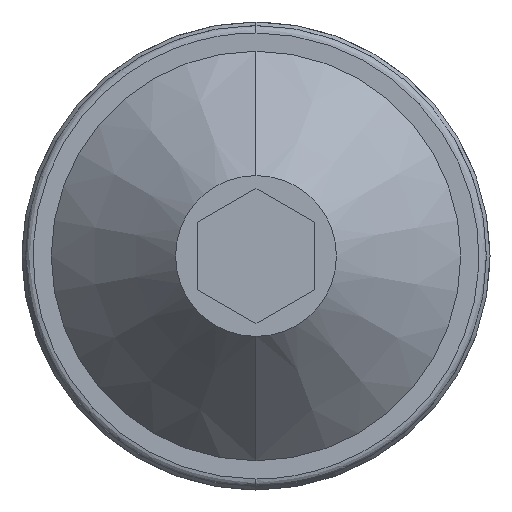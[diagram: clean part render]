
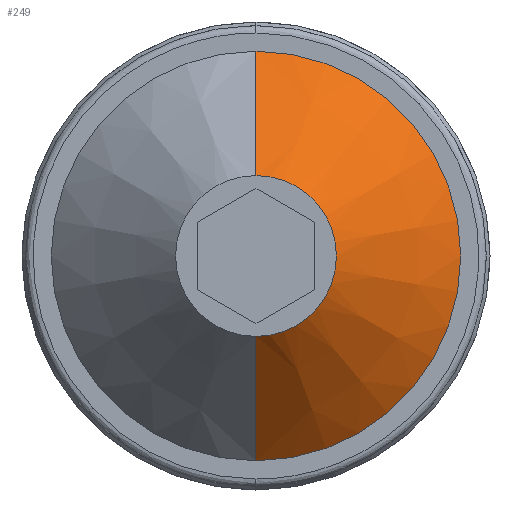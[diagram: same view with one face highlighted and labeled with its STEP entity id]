
A CAD part, front view. The second image highlights one B-rep face of the part: STEP entity #249.
In plain terms, the highlighted conical face has half-angle 43.363 degrees and reference radius 14 mm.
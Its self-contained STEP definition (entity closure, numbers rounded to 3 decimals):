
#7 = DIRECTION ( 'NONE',  ( 0., 0.727, -0.687 ) ) ;
#45 = DIRECTION ( 'NONE',  ( 0., -1., 0. ) ) ;
#93 = CARTESIAN_POINT ( 'NONE',  ( -18.906, -25.126, 32.001 ) ) ;
#103 = CARTESIAN_POINT ( 'NONE',  ( -18.906, -16.126, 32.001 ) ) ;
#136 = VECTOR ( 'NONE', #7, 1000. ) ;
#139 = VECTOR ( 'NONE', #1095, 1000. ) ;
#162 = ORIENTED_EDGE ( 'NONE', *, *, #298, .T. ) ;
#180 = VERTEX_POINT ( 'NONE', #587 ) ;
#203 = DIRECTION ( 'NONE',  ( 0., 0., 1. ) ) ;
#213 = FACE_OUTER_BOUND ( 'NONE', #274, .T. ) ;
#249 = ADVANCED_FACE ( 'NONE', ( #213 ), #663, .T. ) ;
#274 = EDGE_LOOP ( 'NONE', ( #472, #162, #285, #775 ) ) ;
#275 = CARTESIAN_POINT ( 'NONE',  ( -18.906, -25.126, 26.5 ) ) ;
#280 = LINE ( 'NONE', #374, #139 ) ;
#285 = ORIENTED_EDGE ( 'NONE', *, *, #513, .T. ) ;
#298 = EDGE_CURVE ( 'NONE', #941, #180, #1312, .T. ) ;
#301 = DIRECTION ( 'NONE',  ( 0., 0., 1. ) ) ;
#374 = CARTESIAN_POINT ( 'NONE',  ( -18.906, -16.126, 46. ) ) ;
#447 = CIRCLE ( 'NONE', #786, 14. ) ;
#450 = DIRECTION ( 'NONE',  ( 0., 0., 1. ) ) ;
#460 = CARTESIAN_POINT ( 'NONE',  ( -18.906, -25.126, 37.501 ) ) ;
#472 = ORIENTED_EDGE ( 'NONE', *, *, #1054, .T. ) ;
#513 = EDGE_CURVE ( 'NONE', #180, #1272, #447, .T. ) ;
#587 = CARTESIAN_POINT ( 'NONE',  ( -18.906, -16.126, 18. ) ) ;
#596 = EDGE_CURVE ( 'NONE', #1285, #1272, #280, .T. ) ;
#621 = DIRECTION ( 'NONE',  ( 0., 1., 0. ) ) ;
#652 = CARTESIAN_POINT ( 'NONE',  ( -18.906, -16.126, 46.001 ) ) ;
#663 = CONICAL_SURFACE ( 'NONE', #676, 14., 0.757 ) ;
#676 = AXIS2_PLACEMENT_3D ( 'NONE', #103, #621, #203 ) ;
#775 = ORIENTED_EDGE ( 'NONE', *, *, #596, .F. ) ;
#786 = AXIS2_PLACEMENT_3D ( 'NONE', #957, #45, #450 ) ;
#941 = VERTEX_POINT ( 'NONE', #275 ) ;
#957 = CARTESIAN_POINT ( 'NONE',  ( -18.906, -16.126, 32.001 ) ) ;
#1003 = CIRCLE ( 'NONE', #1075, 5.5 ) ;
#1054 = EDGE_CURVE ( 'NONE', #1285, #941, #1003, .T. ) ;
#1075 = AXIS2_PLACEMENT_3D ( 'NONE', #93, #1205, #301 ) ;
#1095 = DIRECTION ( 'NONE',  ( 0., 0.727, 0.687 ) ) ;
#1205 = DIRECTION ( 'NONE',  ( 0., 1., 0. ) ) ;
#1272 = VERTEX_POINT ( 'NONE', #652 ) ;
#1285 = VERTEX_POINT ( 'NONE', #460 ) ;
#1312 = LINE ( 'NONE', #1316, #136 ) ;
#1316 = CARTESIAN_POINT ( 'NONE',  ( -18.906, -16.126, 18.001 ) ) ;
